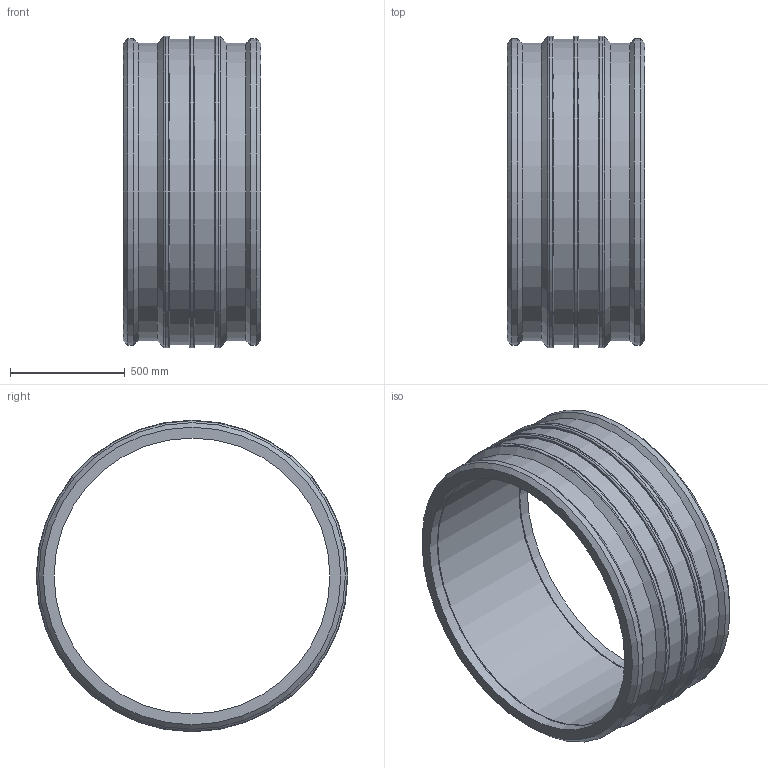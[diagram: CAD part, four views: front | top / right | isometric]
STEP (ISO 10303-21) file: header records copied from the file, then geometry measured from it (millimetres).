
FILE_DESCRIPTION(/* description */ ('PLASSON LIGHTFIT COUPLER 1200'),/* implementation_level */ '2;1');
FILE_NAME(/* name */ 'C:\Dropbox\KIMPROJECTS-Inventor 2019\99-16-3568-Processing\ElectroFusion Fittings\460103\4601031200.ipt.stp',/* time_stamp */ '2020-12-09T14:37:55+02:00',/* author */ ('KIM'),/* organization */ (''),/* preprocessor_version */ 'ST-DEVELOPER v17.2',/* originating_system */ 'Autodesk Inventor 2019',/* authorisation */ '');
FILE_SCHEMA (('AUTOMOTIVE_DESIGN { 1 0 10303 214 3 1 1 }'));
Length unit declared in the file: millimetre
Products named in the file (1): 4601031200
Bounding box: 600 x 1355 x 1355 mm (x, y, z)
Volume: 142563008 mm3; surface area: 5544110.1 mm2
Topology: 1 solids, 1 shells, 48 faces, 126 edges, 92 vertices
Faces by surface type: cylinder 20, plane 14, cone 8, torus 6
Full cylindrical faces by diameter (mm): 4 x2, 10 x2, 1200 x3, 1293.98 x2, 1327.9 x2, 1334 x2, 1355 x3
Entity records: 1687 total; most frequent: CARTESIAN_POINT 337, DIRECTION 318, ORIENTED_EDGE 252, AXIS2_PLACEMENT_3D 147, EDGE_CURVE 126, CIRCLE 98, VERTEX_POINT 92, EDGE_LOOP 62
